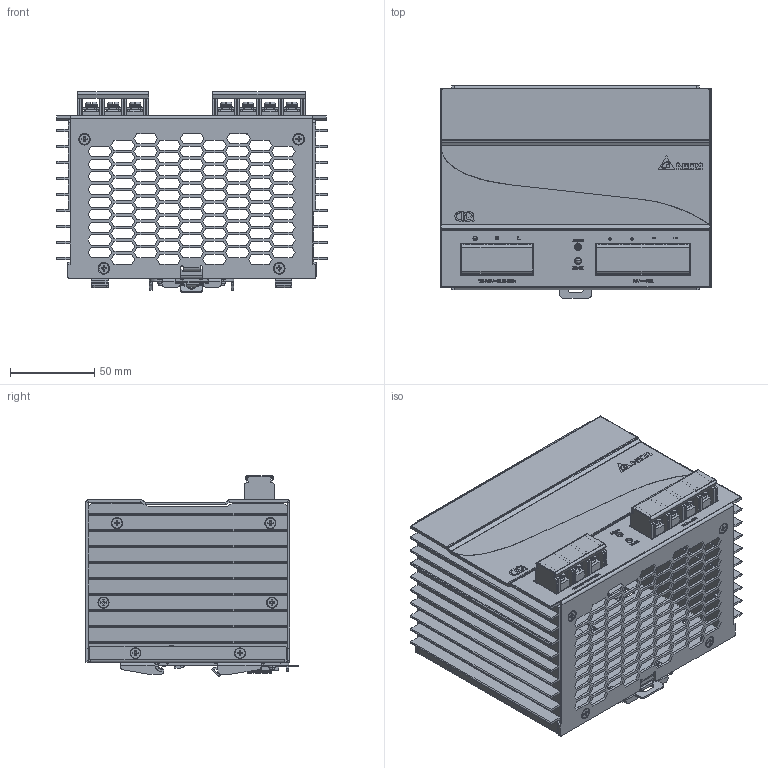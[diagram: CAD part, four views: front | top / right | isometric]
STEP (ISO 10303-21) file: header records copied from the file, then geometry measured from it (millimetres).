
FILE_DESCRIPTION((''),'2;1');
FILE_NAME('DRP024V480W1AA_ASM','2012-04-20T',('Manop.Pr'),(''),'PRO/ENGINEER BY PARAMETRIC TECHNOLOGY CORPORATION, 2010180','PRO/ENGINEER BY PARAMETRIC TECHNOLOGY CORPORATION, 2010180','');
FILE_SCHEMA(('CONFIG_CONTROL_DESIGN','SHAPE_APPEARANCE_LAYERS_GROUPS'));
Products named in the file (31): 331067460102; 334638420103; 334638530102; 3461303000; 3460088100; 3462026200; ASSY_LATCH_50X100_ASM; 3460352900_EVT1; 3460353000; 2968056204_DCT-562; 3072076346_A_BODY; 3072076346_A_COVER; 3072076346_A_SCREW; 3072076346_ASM; 3072076546_A_BODY; 3072076546_A_COVER; 3072076546_A_SCREW; 3072076546_ASM; EE_LED; EE_VR501; ASSY_DCT-562_ASM; 3105221600; 331601340002; 326558600102; 326304150406; 3263062800; 3202315200; 3100000600; 3103000601; 3100000800; DRP024V480W1AA_ASM
Assembly tree (59 placements, depth 4):
  DRP024V480W1AA_ASM
    331067460102
    334638420103
    334638530102
    ASSY_LATCH_50X100_ASM
      3461303000
      3460088100
      3462026200
    3460352900_EVT1
    3460353000
    ASSY_DCT-562_ASM
      2968056204_DCT-562
      3072076346_ASM
        3072076346_A_BODY
        3072076346_A_COVER
        3072076346_A_SCREW  x3
      3072076546_ASM
        3072076546_A_BODY
        3072076546_A_COVER
        3072076546_A_SCREW  x4
      EE_LED
      EE_VR501
    3105221600  x4
    331601340002
    326558600102
    326304150406
    3263062800
    3202315200
    3100000600  x14
    3103000601  x4
    3100000800  x6
Bounding box: 160.5 x 126 x 119.04 mm (x, y, z)
Volume: 231186 mm3; surface area: 314386.4 mm2
Topology: 57 solids, 57 shells, 6721 faces, 17346 edges, 10813 vertices
Faces by surface type: plane 4484, cylinder 1023, extrusion 452, cone 360, bspline 328, torus 72, sphere 2
Entity records: 196397 total; most frequent: CARTESIAN_POINT 36906, ORIENTED_EDGE 25392, DIRECTION 22473, PRESENTATION_STYLE_ASSIGNMENT 12773, EDGE_CURVE 12696, STYLED_ITEM 12579, CURVE_STYLE 12544, VECTOR 10443
